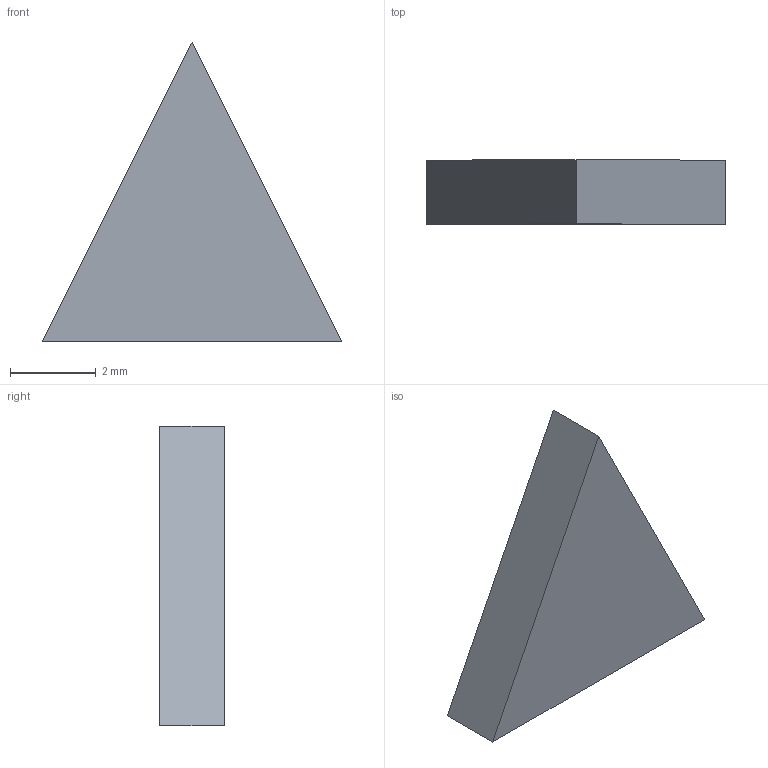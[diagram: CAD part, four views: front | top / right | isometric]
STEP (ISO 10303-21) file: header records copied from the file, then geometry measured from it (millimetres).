
FILE_DESCRIPTION(('FreeCAD Model'),'2;1');
FILE_NAME('Open CASCADE Shape Model','2026-11-17T15:16:24',('FreeCAD'),( 'FreeCAD'),'Open CASCADE STEP processor 7.8','FreeCAD','Unknown');
FILE_SCHEMA(('AUTOMOTIVE_DESIGN { 1 0 10303 214 1 1 1 1 }'));
Length unit declared in the file: millimetre
Products named in the file (1): Open CASCADE STEP translator 7.8 13
Bounding box: 7 x 1.5 x 7 mm (x, y, z)
Volume: 36.8 mm3; surface area: 83 mm2
Topology: 1 solids, 1 shells, 5 faces, 9 edges, 6 vertices
Faces by surface type: plane 5
Entity records: 133 total; most frequent: CARTESIAN_POINT 21, DIRECTION 21, ORIENTED_EDGE 18, EDGE_CURVE 9, LINE 9, VECTOR 9, AXIS2_PLACEMENT_3D 6, VERTEX_POINT 6
